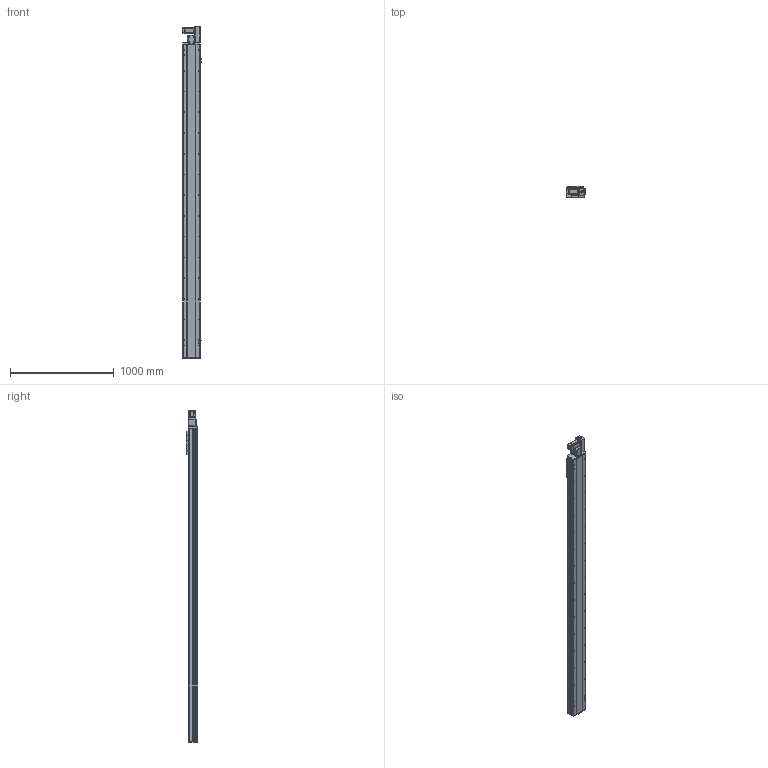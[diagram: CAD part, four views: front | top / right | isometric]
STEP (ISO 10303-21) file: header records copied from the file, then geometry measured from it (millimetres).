
FILE_DESCRIPTION (( 'STEP AP214' ), '1' );
FILE_NAME ('TPE17-L40-2700-R-T40-C4.STEP', '2023-04-12T07:32:43', ( '' ), ( '' ), 'SwSTEP 2.0', 'SolidWorks 2020', '' );
FILE_SCHEMA (( 'AUTOMOTIVE_DESIGN' ));
Length unit declared in the file: millimetre
Products named in the file (12): 葩璃 TPE17-L-001 菁釱MZ-170-01^TPE17-L40-R-T40-C4; 葩璃 pm-t65-672^TPE17-L40-R-T40-C4; 葩璃 TPE17-L-002 耜裔ZTMZ-135-04^TPE17-L40-R-T40-C4; 葩璃 TPT14-L-009 萇儂啣^TPE17-L40-R-T40-C4_400W; 葩璃 TPE17 賑雄殤^TPE17-L40-R-T40-C4; hex nuts, style 1-grades ab gb_GB_FASTENER_NUT_SNAB1 M3-N; TPE17-L40-2700-R-T40-C4; 葩璃 侂狟400W^TPE17-L40-R-T40-C4; 葩璃 TPE17-L-007 々湍釱MZ-169x88^TPE17-L40-R-T40-C4_TPE17; hexagon socket head cap screws gb_GB_FASTENER_SCREWS_HSHCS M3X6-N; hexagon head bolts-full thread gb_GB_FASTENER_BOLT_STBAB A M5X16-N; 葩璃 詩湍110^TPE17-L40-R-T40-C4
Assembly tree (24 placements, depth 2):
  TPE17-L40-2700-R-T40-C4
    葩璃 TPE17-L-001 菁釱MZ-170-01^TPE17-L40-R-T40-C4
    葩璃 TPE17-L-002 耜裔ZTMZ-135-04^TPE17-L40-R-T40-C4  x2
    葩璃 詩湍110^TPE17-L40-R-T40-C4
    葩璃 TPE17-L-007 々湍釱MZ-169x88^TPE17-L40-R-T40-C4_TPE17
    葩璃 TPT14-L-009 萇儂啣^TPE17-L40-R-T40-C4_400W
    葩璃 TPE17 賑雄殤^TPE17-L40-R-T40-C4
    葩璃 pm-t65-672^TPE17-L40-R-T40-C4  x3
    葩璃 侂狟400W^TPE17-L40-R-T40-C4
    hexagon socket head cap screws gb_GB_FASTENER_SCREWS_HSHCS M3X6-N  x6
    hex nuts, style 1-grades ab gb_GB_FASTENER_NUT_SNAB1 M3-N  x6
    hexagon head bolts-full thread gb_GB_FASTENER_BOLT_STBAB A M5X16-N
Bounding box: 186.2 x 107 x 3203.65 mm (x, y, z)
Volume: 27404894 mm3; surface area: 3429595.7 mm2
Topology: 35 solids, 35 shells, 1770 faces, 4507 edges, 2818 vertices
Faces by surface type: plane 981, cylinder 501, cone 242, bspline 34, torus 12
Entity records: 42119 total; most frequent: CARTESIAN_POINT 8126, DIRECTION 6752, ORIENTED_EDGE 6470, EDGE_CURVE 3235, AXIS2_PLACEMENT_3D 2317, VECTOR 2118, LINE 2118, VERTEX_POINT 2081
